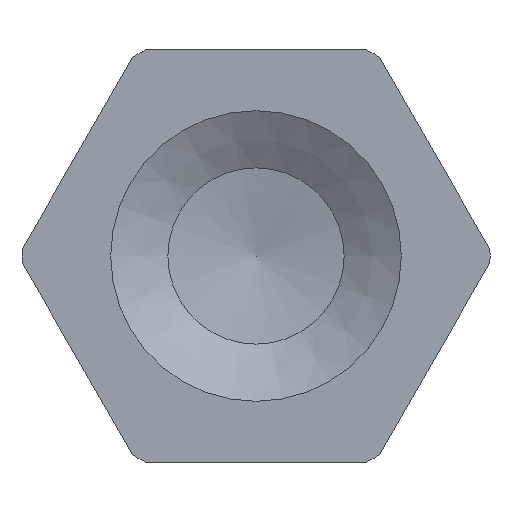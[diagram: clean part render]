
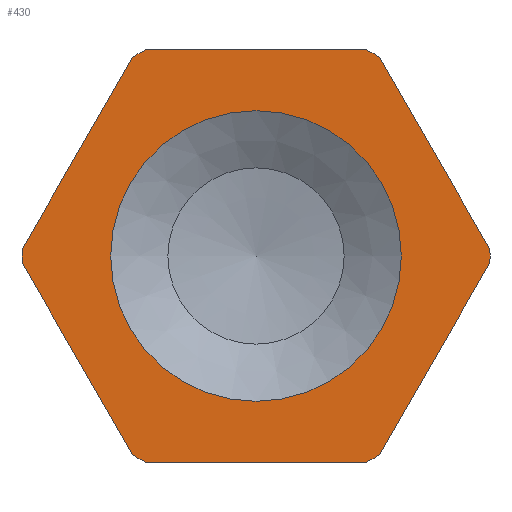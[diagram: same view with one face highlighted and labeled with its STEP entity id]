
A CAD part, left-side view. The second image highlights one B-rep face of the part: STEP entity #430.
In plain terms, the highlighted planar face has unit normal (-1, 0, 0).
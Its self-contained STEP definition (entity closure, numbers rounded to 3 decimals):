
#18=LINE($,#692,#42);
#19=LINE($,#696,#43);
#20=LINE($,#700,#44);
#21=LINE($,#704,#45);
#22=LINE($,#708,#46);
#23=LINE($,#712,#47);
#42=VECTOR($,#552,2.133);
#43=VECTOR($,#555,2.133);
#44=VECTOR($,#558,2.133);
#45=VECTOR($,#561,2.133);
#46=VECTOR($,#564,2.133);
#47=VECTOR($,#567,2.133);
#61=PLANE($,#472);
#90=FACE_BOUND($,#138,.T.);
#91=FACE_BOUND($,#139,.T.);
#138=EDGE_LOOP($,(#310));
#139=EDGE_LOOP($,(#311,#312,#313,#314,#315,#316,#317,#318,#319,#320,#321,
#322));
#176=CIRCLE($,#461,1.397);
#185=CIRCLE($,#473,2.25);
#186=CIRCLE($,#474,2.25);
#187=CIRCLE($,#475,2.25);
#188=CIRCLE($,#476,2.25);
#189=CIRCLE($,#477,2.25);
#190=CIRCLE($,#478,2.25);
#203=VERTEX_POINT($,#657);
#218=VERTEX_POINT($,#690);
#219=VERTEX_POINT($,#691);
#220=VERTEX_POINT($,#693);
#221=VERTEX_POINT($,#695);
#222=VERTEX_POINT($,#697);
#223=VERTEX_POINT($,#699);
#224=VERTEX_POINT($,#701);
#225=VERTEX_POINT($,#703);
#226=VERTEX_POINT($,#705);
#227=VERTEX_POINT($,#707);
#228=VERTEX_POINT($,#709);
#229=VERTEX_POINT($,#711);
#242=EDGE_CURVE($,#203,#203,#176,.T.);
#257=EDGE_CURVE($,#218,#219,#18,.T.);
#258=EDGE_CURVE($,#219,#220,#185,.T.);
#259=EDGE_CURVE($,#220,#221,#19,.T.);
#260=EDGE_CURVE($,#221,#222,#186,.T.);
#261=EDGE_CURVE($,#222,#223,#20,.T.);
#262=EDGE_CURVE($,#223,#224,#187,.T.);
#263=EDGE_CURVE($,#224,#225,#21,.T.);
#264=EDGE_CURVE($,#225,#226,#188,.T.);
#265=EDGE_CURVE($,#226,#227,#22,.T.);
#266=EDGE_CURVE($,#227,#228,#189,.T.);
#267=EDGE_CURVE($,#228,#229,#23,.T.);
#268=EDGE_CURVE($,#229,#218,#190,.T.);
#310=ORIENTED_EDGE($,*,*,#242,.T.);
#311=ORIENTED_EDGE($,*,*,#257,.T.);
#312=ORIENTED_EDGE($,*,*,#258,.T.);
#313=ORIENTED_EDGE($,*,*,#259,.T.);
#314=ORIENTED_EDGE($,*,*,#260,.T.);
#315=ORIENTED_EDGE($,*,*,#261,.T.);
#316=ORIENTED_EDGE($,*,*,#262,.T.);
#317=ORIENTED_EDGE($,*,*,#263,.T.);
#318=ORIENTED_EDGE($,*,*,#264,.T.);
#319=ORIENTED_EDGE($,*,*,#265,.T.);
#320=ORIENTED_EDGE($,*,*,#266,.T.);
#321=ORIENTED_EDGE($,*,*,#267,.T.);
#322=ORIENTED_EDGE($,*,*,#268,.T.);
#430=ADVANCED_FACE($,(#90,#91),#61,.T.);
#461=AXIS2_PLACEMENT_3D($,#658,#522,#523);
#472=AXIS2_PLACEMENT_3D($,#689,#550,#551);
#473=AXIS2_PLACEMENT_3D($,#694,#553,#554);
#474=AXIS2_PLACEMENT_3D($,#698,#556,#557);
#475=AXIS2_PLACEMENT_3D($,#702,#559,#560);
#476=AXIS2_PLACEMENT_3D($,#706,#562,#563);
#477=AXIS2_PLACEMENT_3D($,#710,#565,#566);
#478=AXIS2_PLACEMENT_3D($,#713,#568,#569);
#522=DIRECTION('center_axis',(1.,0.,0.));
#523=DIRECTION('ref_axis',(0.,-1.,0.));
#550=DIRECTION('center_axis',(-1.,0.,0.));
#551=DIRECTION('ref_axis',(0.,0.,1.));
#552=DIRECTION($,(0.,-0.5,-0.866));
#553=DIRECTION('center_axis',(-1.,0.,0.));
#554=DIRECTION('ref_axis',(0.,1.,0.));
#555=DIRECTION($,(0.,-1.,0.));
#556=DIRECTION('center_axis',(-1.,0.,0.));
#557=DIRECTION('ref_axis',(0.,1.,0.));
#558=DIRECTION($,(0.,-0.5,0.866));
#559=DIRECTION('center_axis',(-1.,0.,0.));
#560=DIRECTION('ref_axis',(0.,1.,0.));
#561=DIRECTION($,(0.,0.5,0.866));
#562=DIRECTION('center_axis',(-1.,0.,0.));
#563=DIRECTION('ref_axis',(0.,1.,0.));
#564=DIRECTION($,(0.,1.,0.));
#565=DIRECTION('center_axis',(-1.,0.,0.));
#566=DIRECTION('ref_axis',(0.,1.,0.));
#567=DIRECTION($,(0.,0.5,-0.866));
#568=DIRECTION('center_axis',(-1.,0.,0.));
#569=DIRECTION('ref_axis',(0.,1.,0.));
#657=CARTESIAN_POINT('',(-14.655,1.501,0.));
#658=CARTESIAN_POINT('Origin',(-14.655,2.898,0.));
#689=CARTESIAN_POINT('Origin',(-14.655,4.023,0.));
#690=CARTESIAN_POINT('',(-14.655,5.147,-0.067));
#691=CARTESIAN_POINT('',(-14.655,4.081,-1.914));
#692=CARTESIAN_POINT($,(-14.655,5.116,-0.121));
#693=CARTESIAN_POINT('',(-14.655,3.965,-1.981));
#694=CARTESIAN_POINT('Origin',(-14.655,2.898,0.));
#695=CARTESIAN_POINT('',(-14.655,1.832,-1.981));
#696=CARTESIAN_POINT($,(-14.655,4.183,-1.981));
#697=CARTESIAN_POINT('',(-14.655,1.716,-1.914));
#698=CARTESIAN_POINT('Origin',(-14.655,2.898,0.));
#699=CARTESIAN_POINT('',(-14.655,0.649,-0.067));
#700=CARTESIAN_POINT($,(-14.655,1.684,-1.86));
#701=CARTESIAN_POINT('',(-14.655,0.649,0.067));
#702=CARTESIAN_POINT('Origin',(-14.655,2.898,0.));
#703=CARTESIAN_POINT('',(-14.655,1.716,1.914));
#704=CARTESIAN_POINT($,(-14.655,0.962,0.609));
#705=CARTESIAN_POINT('',(-14.655,1.832,1.981));
#706=CARTESIAN_POINT('Origin',(-14.655,2.898,0.));
#707=CARTESIAN_POINT('',(-14.655,3.965,1.981));
#708=CARTESIAN_POINT($,(-14.655,2.738,1.981));
#709=CARTESIAN_POINT('',(-14.655,4.081,1.914));
#710=CARTESIAN_POINT('Origin',(-14.655,2.898,0.));
#711=CARTESIAN_POINT('',(-14.655,5.147,0.067));
#712=CARTESIAN_POINT($,(-14.655,4.393,1.373));
#713=CARTESIAN_POINT('Origin',(-14.655,2.898,0.));
